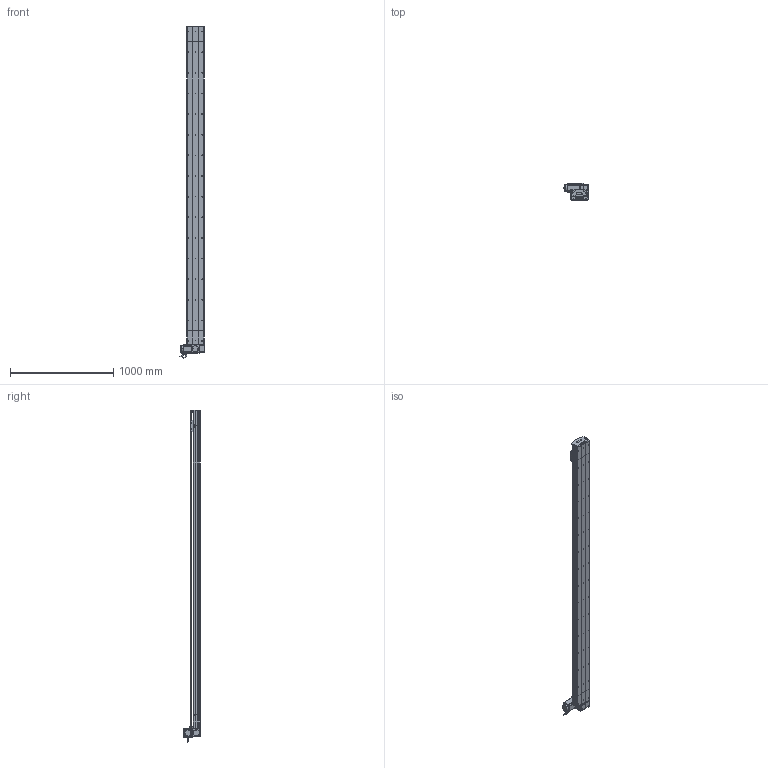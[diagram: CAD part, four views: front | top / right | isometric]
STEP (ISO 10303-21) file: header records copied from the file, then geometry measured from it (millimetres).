
FILE_DESCRIPTION (( 'STEP AP214' ), '1' );
FILE_NAME ('D17 TBN LT S2800.STEP', '2010-06-30T13:18:12', ( 'Conseil Régional Haute-Normandie' ), ( 'Conseil Régional Haute-Normandie' ), 'SwSTEP 2.0', 'SolidWorks 2010', '' );
FILE_SCHEMA (( 'AUTOMOTIVE_DESIGN' ));
Length unit declared in the file: millimetre
Products named in the file (40): poulie tail_Default; plaque de  bout tail D17B_Default; vis M5 L25_Default; corp D17B 2800_Default; Chariot D17 TBN; corpl tail D17B_Default; Tail D17B_Default; corpl head D17 _Default; Head LT D17B_Default; couvercle D17B course L2800_Default; cache D17_Default; Arbre+rail head D17B; plaque de  bout head D17B LT_Default; couvercle D17B head_Default; poulie head_Default; vis M5 L5_Default; Moteur motionking 90BLDC125A-640; Renvoi LT_Default; couroie head D17_Default; cache arbre D17_Default; codeur 90BLDC125-640; corps 90BLDC125A-640; avant 90BLDC125A-640; vis M5 L70_Default; Conecteur_Default; Conecteur2_Default; Vis M5 L16-2_Default; vis M5 L16_Default; Plaque racord D17_Default; vis M5 L8 90°_Default; guide D17; Rail D17B; vis M5 L12_Default; chariot D17 TBN; Couroie tail D17B_Default; D17 TBN LT S2800; tete d''axe poulie D17B; Couroie+ rail D17 Course 2800 ; couvercle D17B_Default; course 2800 D17B_Default
Assembly tree (66 placements, depth 4):
  D17 TBN LT S2800
    Tail D17B_Default
      tete d''axe poulie D17B
      plaque de  bout tail D17B_Default
      corpl tail D17B_Default
      vis M5 L25_Default  x2
      couvercle D17B_Default
      vis M5 L8 90°_Default  x2
      Rail D17B
      vis M5 L12_Default  x4
      poulie tail_Default
      Couroie tail D17B_Default
    chariot D17 TBN
      guide D17  x2
      Chariot D17 TBN
    Head LT D17B_Default
      vis M5 L12_Default  x8
      couroie head D17_Default
      vis M5 L5_Default  x4
      vis M5 L25_Default  x2
      Vis M5 L16-2_Default  x4
      vis M5 L70_Default  x4
      vis M5 L16_Default  x2
      Plaque racord D17_Default
      cache D17_Default  x2
      Renvoi LT_Default
      cache arbre D17_Default
      Arbre+rail head D17B
      Moteur motionking 90BLDC125A-640
        corps 90BLDC125A-640
        Conecteur_Default
        Conecteur2_Default
        avant 90BLDC125A-640
        codeur 90BLDC125-640
      corpl head D17 _Default
      couvercle D17B head_Default
      poulie head_Default
      plaque de  bout head D17B LT_Default
    course 2800 D17B_Default
      corp D17B 2800_Default
      Couroie+ rail D17 Course 2800 
      couvercle D17B course L2800_Default
Bounding box: 245.2 x 166.15 x 3217.95 mm (x, y, z)
Volume: 18284074.7 mm3; surface area: 5333167.9 mm2
Topology: 89 solids, 89 shells, 2639 faces, 6781 edges, 4370 vertices
Faces by surface type: plane 1533, cylinder 809, bspline 136, cone 80, torus 77, sphere 4
Entity records: 85907 total; most frequent: CARTESIAN_POINT 25483, ORIENTED_EDGE 10734, DIRECTION 10132, EDGE_CURVE 5367, VERTEX_POINT 3514, LINE 3506, VECTOR 3506, AXIS2_PLACEMENT_3D 3313
